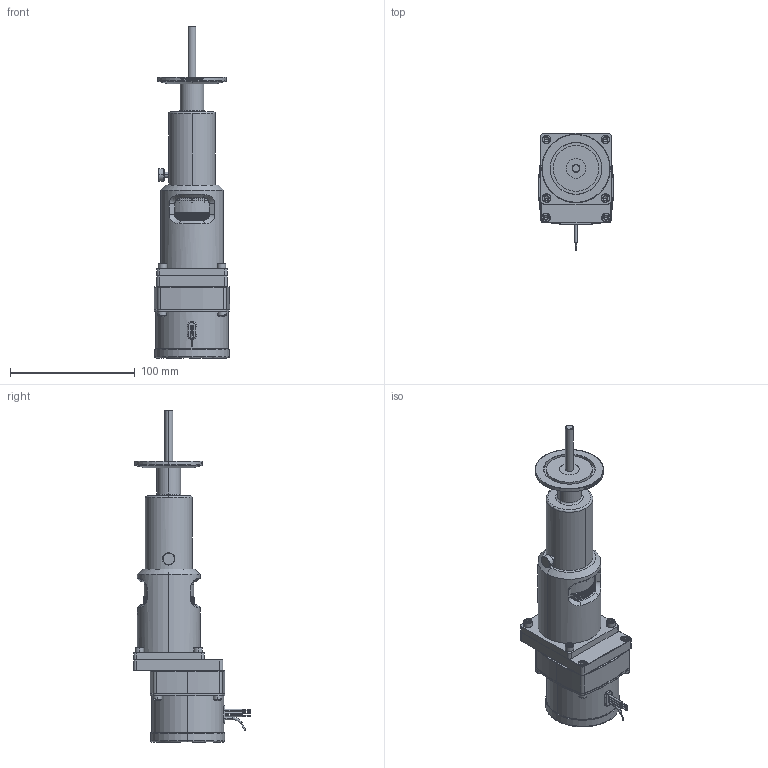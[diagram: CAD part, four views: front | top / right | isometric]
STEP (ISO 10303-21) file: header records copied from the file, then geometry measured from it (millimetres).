
FILE_DESCRIPTION (( 'STEP AP203' ), '1' );
FILE_NAME ('102150.21.stp', '2019-04-18T20:17:54', ( '' ), ( '' ), 'SwSTEP 2.0', 'SolidWorks 2012', '' );
FILE_SCHEMA (( 'CONFIG_CONTROL_DESIGN' ));
Products named in the file (1): 102150.21
Bounding box: 60.33 x 93.89 x 266.47 mm (x, y, z)
Volume: 428357.8 mm3; surface area: 58590.1 mm2
Topology: 1 solids, 7 shells, 1471 faces, 4020 edges, 2620 vertices
Faces by surface type: plane 659, cylinder 504, bspline 173, cone 135
Entity records: 72496 total; most frequent: CARTESIAN_POINT 36301, ORIENTED_EDGE 8016, DIRECTION 7044, EDGE_CURVE 4008, VERTEX_POINT 2620, AXIS2_PLACEMENT_3D 2592, LINE 1860, VECTOR 1860
